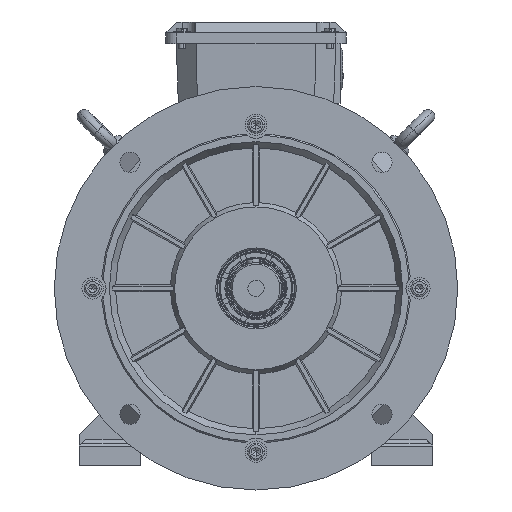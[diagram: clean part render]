
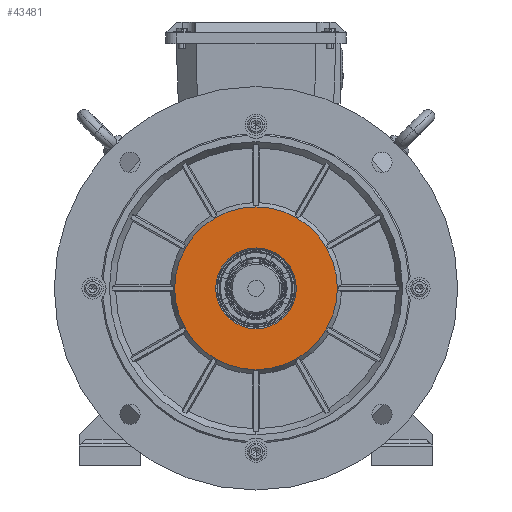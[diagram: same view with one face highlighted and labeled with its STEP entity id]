
A CAD part, left-side view. The second image highlights one B-rep face of the part: STEP entity #43481.
In plain terms, the highlighted planar face has unit normal (-1, 0, 0).
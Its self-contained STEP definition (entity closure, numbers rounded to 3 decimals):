
#10536 = DIRECTION ( 'NONE',  ( 0., 0., 1. ) ) ;
#18845 = CARTESIAN_POINT ( 'NONE',  ( -133.99, -2.924, -1.988 ) ) ;
#21573 = AXIS2_PLACEMENT_3D ( 'NONE', #21720, #34294, #69585 ) ;
#21720 = CARTESIAN_POINT ( 'NONE',  ( -133.99, -2.924, -1.988 ) ) ;
#23677 = VERTEX_POINT ( 'NONE', #111237 ) ;
#26853 = AXIS2_PLACEMENT_3D ( 'NONE', #43323, #54301, #66070 ) ;
#33527 = CARTESIAN_POINT ( 'NONE',  ( -133.99, -2.924, -1.988 ) ) ;
#33924 = CIRCLE ( 'NONE', #58998, 30. ) ;
#34294 = DIRECTION ( 'NONE',  ( -1., 0., 0. ) ) ;
#41960 = EDGE_CURVE ( 'NONE', #116188, #81121, #111947, .T. ) ;
#43323 = CARTESIAN_POINT ( 'NONE',  ( -133.99, 57.576, -1.988 ) ) ;
#43481 = ADVANCED_FACE ( 'NONE', ( #78653, #138455 ), #90448, .F. ) ;
#48995 = AXIS2_PLACEMENT_3D ( 'NONE', #18845, #68264, #89532 ) ;
#54301 = DIRECTION ( 'NONE',  ( 1., 0., 0. ) ) ;
#58372 = VERTEX_POINT ( 'NONE', #123729 ) ;
#58998 = AXIS2_PLACEMENT_3D ( 'NONE', #33527, #69587, #94748 ) ;
#66070 = DIRECTION ( 'NONE',  ( 0., 1., 0. ) ) ;
#68264 = DIRECTION ( 'NONE',  ( -1., 0., 0. ) ) ;
#69585 = DIRECTION ( 'NONE',  ( 0., 0., 1. ) ) ;
#69587 = DIRECTION ( 'NONE',  ( -1., 0., 0. ) ) ;
#69711 = EDGE_CURVE ( 'NONE', #58372, #23677, #104789, .T. ) ;
#69776 = CARTESIAN_POINT ( 'NONE',  ( -133.99, -2.924, 28.012 ) ) ;
#74078 = CIRCLE ( 'NONE', #48995, 60.5 ) ;
#78653 = FACE_OUTER_BOUND ( 'NONE', #78856, .T. ) ;
#78856 = EDGE_LOOP ( 'NONE', ( #125952, #81807 ) ) ;
#81121 = VERTEX_POINT ( 'NONE', #69776 ) ;
#81807 = ORIENTED_EDGE ( 'NONE', *, *, #69711, .T. ) ;
#89532 = DIRECTION ( 'NONE',  ( 0., 0., 1. ) ) ;
#90448 = PLANE ( 'NONE',  #26853 ) ;
#93950 = ORIENTED_EDGE ( 'NONE', *, *, #106252, .F. ) ;
#94748 = DIRECTION ( 'NONE',  ( 0., 0., 1. ) ) ;
#96921 = CARTESIAN_POINT ( 'NONE',  ( -133.99, -2.924, -1.988 ) ) ;
#98400 = EDGE_LOOP ( 'NONE', ( #93950, #151207 ) ) ;
#100322 = CARTESIAN_POINT ( 'NONE',  ( -133.99, -2.924, -31.988 ) ) ;
#104789 = CIRCLE ( 'NONE', #155013, 60.5 ) ;
#106252 = EDGE_CURVE ( 'NONE', #81121, #116188, #33924, .T. ) ;
#111237 = CARTESIAN_POINT ( 'NONE',  ( -133.99, -2.924, -62.488 ) ) ;
#111947 = CIRCLE ( 'NONE', #21573, 30. ) ;
#116188 = VERTEX_POINT ( 'NONE', #100322 ) ;
#123694 = EDGE_CURVE ( 'NONE', #23677, #58372, #74078, .T. ) ;
#123729 = CARTESIAN_POINT ( 'NONE',  ( -133.99, -2.924, 58.512 ) ) ;
#125952 = ORIENTED_EDGE ( 'NONE', *, *, #123694, .T. ) ;
#138455 = FACE_BOUND ( 'NONE', #98400, .T. ) ;
#144929 = DIRECTION ( 'NONE',  ( -1., 0., 0. ) ) ;
#151207 = ORIENTED_EDGE ( 'NONE', *, *, #41960, .F. ) ;
#155013 = AXIS2_PLACEMENT_3D ( 'NONE', #96921, #144929, #10536 ) ;
